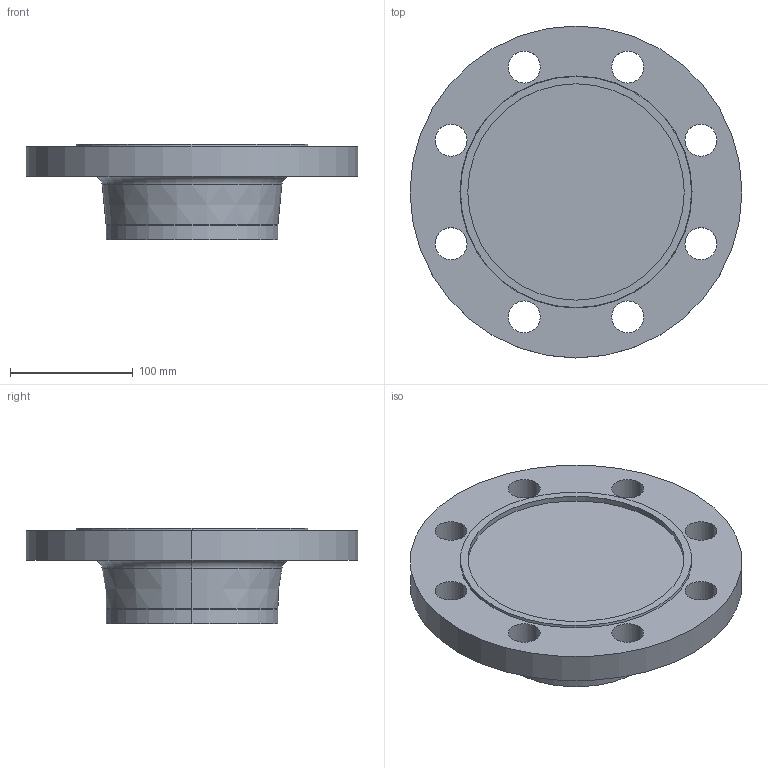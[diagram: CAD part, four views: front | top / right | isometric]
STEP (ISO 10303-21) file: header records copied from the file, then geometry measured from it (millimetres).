
FILE_DESCRIPTION (( 'STEP AP214' ), '1' );
FILE_NAME ('PN40 DN125 Type 21(ii) - Type F Face.STEP', '2019-01-02T01:07:42', ( '' ), ( '' ), 'SwSTEP 2.0', 'SolidWorks 2019', '' );
FILE_SCHEMA (( 'AUTOMOTIVE_DESIGN' ));
Length unit declared in the file: millimetre
Products named in the file (1): PN40 DN125 Type 21(ii) - Type F Face
Bounding box: 270 x 270 x 78 mm (x, y, z)
Volume: 2055153.4 mm3; surface area: 165936.1 mm2
Topology: 1 solids, 1 shells, 35 faces, 84 edges, 54 vertices
Faces by surface type: cylinder 22, plane 5, torus 4, cone 4
Entity records: 1114 total; most frequent: DIRECTION 214, CARTESIAN_POINT 174, ORIENTED_EDGE 168, AXIS2_PLACEMENT_3D 94, EDGE_CURVE 84, CIRCLE 58, VERTEX_POINT 54, EDGE_LOOP 54
